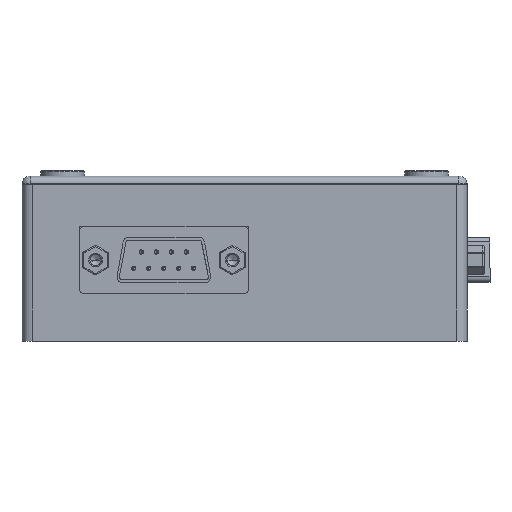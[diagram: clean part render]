
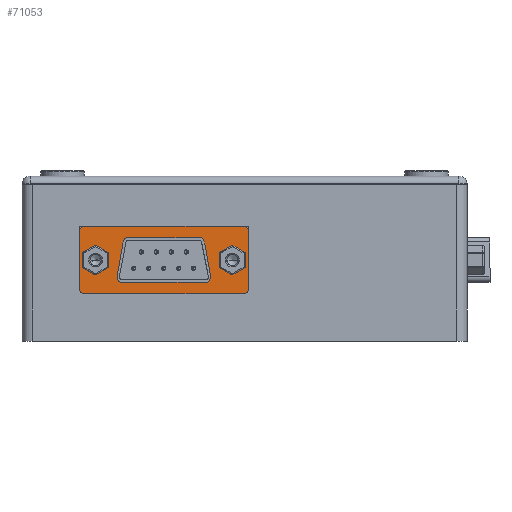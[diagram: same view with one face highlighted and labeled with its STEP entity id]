
A CAD part, left-side view. The second image highlights one B-rep face of the part: STEP entity #71053.
In plain terms, the highlighted planar face has unit normal (-1, 0, 0).
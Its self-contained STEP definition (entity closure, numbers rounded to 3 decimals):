
#252 = VERTEX_POINT ( 'NONE', #11289 ) ;
#334 = DIRECTION ( 'NONE',  ( -1., 0., 0. ) ) ;
#3836 = DIRECTION ( 'NONE',  ( -1., 0., 0. ) ) ;
#4014 = VERTEX_POINT ( 'NONE', #47797 ) ;
#4121 = ORIENTED_EDGE ( 'NONE', *, *, #27496, .T. ) ;
#4281 = LINE ( 'NONE', #24293, #65952 ) ;
#4787 = DIRECTION ( 'NONE',  ( 0., -1., 0. ) ) ;
#5253 = CARTESIAN_POINT ( 'NONE',  ( 12.858, 48.53, 55.91 ) ) ;
#6468 = DIRECTION ( 'NONE',  ( -1., 0., 0. ) ) ;
#7122 = EDGE_CURVE ( 'NONE', #40497, #252, #38866, .T. ) ;
#7803 = ORIENTED_EDGE ( 'NONE', *, *, #59183, .F. ) ;
#9002 = VECTOR ( 'NONE', #68100, 1000. ) ;
#10870 = LINE ( 'NONE', #62451, #9002 ) ;
#11216 = DIRECTION ( 'NONE',  ( 0., 1., 0. ) ) ;
#11289 = CARTESIAN_POINT ( 'NONE',  ( 12.858, 75.83, 49.635 ) ) ;
#11910 = FACE_BOUND ( 'NONE', #70861, .T. ) ;
#12491 = DIRECTION ( 'NONE',  ( -1., 0., 0. ) ) ;
#14129 = EDGE_LOOP ( 'NONE', ( #4121, #66762, #74170, #65872, #63156, #22975, #76081, #63224 ) ) ;
#15147 = DIRECTION ( 'NONE',  ( -1., 0., 0. ) ) ;
#15152 = CIRCLE ( 'NONE', #50162, 1. ) ;
#16782 = EDGE_CURVE ( 'NONE', #19528, #34446, #56676, .T. ) ;
#17751 = LINE ( 'NONE', #42262, #63585 ) ;
#18194 = EDGE_CURVE ( 'NONE', #4014, #19961, #17751, .T. ) ;
#18623 = CARTESIAN_POINT ( 'NONE',  ( 12.858, 75.83, 61.185 ) ) ;
#18660 = VERTEX_POINT ( 'NONE', #23630 ) ;
#19528 = VERTEX_POINT ( 'NONE', #25867 ) ;
#19961 = VERTEX_POINT ( 'NONE', #39440 ) ;
#19989 = AXIS2_PLACEMENT_3D ( 'NONE', #36189, #334, #42200 ) ;
#20301 = ORIENTED_EDGE ( 'NONE', *, *, #50897, .F. ) ;
#22415 = AXIS2_PLACEMENT_3D ( 'NONE', #18623, #60472, #24641 ) ;
#22975 = ORIENTED_EDGE ( 'NONE', *, *, #18194, .T. ) ;
#23051 = CARTESIAN_POINT ( 'NONE',  ( 12.858, 46.53, 62.185 ) ) ;
#23630 = CARTESIAN_POINT ( 'NONE',  ( 12.858, 47.03, 55.91 ) ) ;
#24034 = AXIS2_PLACEMENT_3D ( 'NONE', #39671, #3836, #45710 ) ;
#24293 = CARTESIAN_POINT ( 'NONE',  ( 12.858, 46.53, 49.635 ) ) ;
#24309 = EDGE_CURVE ( 'NONE', #252, #48044, #4281, .T. ) ;
#24641 = DIRECTION ( 'NONE',  ( 0., 1., 0. ) ) ;
#25867 = CARTESIAN_POINT ( 'NONE',  ( 12.858, 72.33, 55.91 ) ) ;
#26167 = EDGE_LOOP ( 'NONE', ( #38942, #20301 ) ) ;
#27496 = EDGE_CURVE ( 'NONE', #64437, #49615, #69431, .T. ) ;
#29724 = CARTESIAN_POINT ( 'NONE',  ( 12.858, 48.53, 55.91 ) ) ;
#30359 = PLANE ( 'NONE',  #22415 ) ;
#30733 = DIRECTION ( 'NONE',  ( 0., 0., 1. ) ) ;
#33002 = LINE ( 'NONE', #76799, #62912 ) ;
#34446 = VERTEX_POINT ( 'NONE', #58538 ) ;
#35757 = DIRECTION ( 'NONE',  ( 0., 1., 0. ) ) ;
#36189 = CARTESIAN_POINT ( 'NONE',  ( 12.858, 73.83, 55.91 ) ) ;
#37672 = EDGE_CURVE ( 'NONE', #39600, #64437, #10870, .T. ) ;
#38866 = CIRCLE ( 'NONE', #59837, 1. ) ;
#38942 = ORIENTED_EDGE ( 'NONE', *, *, #16782, .F. ) ;
#39440 = CARTESIAN_POINT ( 'NONE',  ( 12.858, 45.53, 61.185 ) ) ;
#39600 = VERTEX_POINT ( 'NONE', #23051 ) ;
#39671 = CARTESIAN_POINT ( 'NONE',  ( 12.858, 75.83, 61.185 ) ) ;
#40497 = VERTEX_POINT ( 'NONE', #72374 ) ;
#40609 = DIRECTION ( 'NONE',  ( -1., 0., 0. ) ) ;
#41169 = CARTESIAN_POINT ( 'NONE',  ( 12.858, 75.83, 62.185 ) ) ;
#41929 = FACE_OUTER_BOUND ( 'NONE', #14129, .T. ) ;
#42200 = DIRECTION ( 'NONE',  ( 0., 1., 0. ) ) ;
#42262 = CARTESIAN_POINT ( 'NONE',  ( 12.858, 45.53, 61.185 ) ) ;
#42316 = CARTESIAN_POINT ( 'NONE',  ( 12.858, 46.53, 50.635 ) ) ;
#42323 = DIRECTION ( 'NONE',  ( 0., -1., 0. ) ) ;
#45489 = EDGE_CURVE ( 'NONE', #48044, #4014, #69984, .T. ) ;
#45710 = DIRECTION ( 'NONE',  ( 0., 1., 0. ) ) ;
#46955 = CIRCLE ( 'NONE', #67357, 1.5 ) ;
#47124 = DIRECTION ( 'NONE',  ( -1., 0., 0. ) ) ;
#47276 = DIRECTION ( 'NONE',  ( 0., 0., -1. ) ) ;
#47797 = CARTESIAN_POINT ( 'NONE',  ( 12.858, 45.53, 50.635 ) ) ;
#48044 = VERTEX_POINT ( 'NONE', #76066 ) ;
#48359 = DIRECTION ( 'NONE',  ( 0., -1., 0. ) ) ;
#48417 = CARTESIAN_POINT ( 'NONE',  ( 12.858, 46.53, 61.185 ) ) ;
#49615 = VERTEX_POINT ( 'NONE', #75877 ) ;
#50162 = AXIS2_PLACEMENT_3D ( 'NONE', #48417, #12491, #54442 ) ;
#50897 = EDGE_CURVE ( 'NONE', #34446, #19528, #73241, .T. ) ;
#51047 = CARTESIAN_POINT ( 'NONE',  ( 12.858, 73.83, 55.91 ) ) ;
#51455 = EDGE_CURVE ( 'NONE', #19961, #39600, #15152, .T. ) ;
#54442 = DIRECTION ( 'NONE',  ( 0., -1., 0. ) ) ;
#55958 = EDGE_CURVE ( 'NONE', #56141, #18660, #62421, .T. ) ;
#56141 = VERTEX_POINT ( 'NONE', #61362 ) ;
#56676 = CIRCLE ( 'NONE', #58030, 1.5 ) ;
#57023 = AXIS2_PLACEMENT_3D ( 'NONE', #42316, #6468, #48359 ) ;
#57057 = DIRECTION ( 'NONE',  ( 0., 1., 0. ) ) ;
#57850 = FACE_BOUND ( 'NONE', #26167, .T. ) ;
#58030 = AXIS2_PLACEMENT_3D ( 'NONE', #51047, #15147, #57057 ) ;
#58402 = ORIENTED_EDGE ( 'NONE', *, *, #55958, .F. ) ;
#58538 = CARTESIAN_POINT ( 'NONE',  ( 12.858, 75.33, 55.91 ) ) ;
#59183 = EDGE_CURVE ( 'NONE', #18660, #56141, #46955, .T. ) ;
#59837 = AXIS2_PLACEMENT_3D ( 'NONE', #76214, #40609, #4787 ) ;
#60472 = DIRECTION ( 'NONE',  ( -1., 0., 0. ) ) ;
#61362 = CARTESIAN_POINT ( 'NONE',  ( 12.858, 50.03, 55.91 ) ) ;
#62421 = CIRCLE ( 'NONE', #70010, 1.5 ) ;
#62451 = CARTESIAN_POINT ( 'NONE',  ( 12.858, 46.53, 62.185 ) ) ;
#62912 = VECTOR ( 'NONE', #47276, 1000. ) ;
#63156 = ORIENTED_EDGE ( 'NONE', *, *, #45489, .T. ) ;
#63224 = ORIENTED_EDGE ( 'NONE', *, *, #37672, .T. ) ;
#63585 = VECTOR ( 'NONE', #30733, 1000. ) ;
#64437 = VERTEX_POINT ( 'NONE', #41169 ) ;
#65872 = ORIENTED_EDGE ( 'NONE', *, *, #24309, .T. ) ;
#65952 = VECTOR ( 'NONE', #42323, 1000. ) ;
#66762 = ORIENTED_EDGE ( 'NONE', *, *, #72588, .T. ) ;
#67357 = AXIS2_PLACEMENT_3D ( 'NONE', #5253, #47124, #11216 ) ;
#68100 = DIRECTION ( 'NONE',  ( 0., 1., 0. ) ) ;
#69431 = CIRCLE ( 'NONE', #24034, 1. ) ;
#69984 = CIRCLE ( 'NONE', #57023, 1. ) ;
#70010 = AXIS2_PLACEMENT_3D ( 'NONE', #29724, #71431, #35757 ) ;
#70861 = EDGE_LOOP ( 'NONE', ( #7803, #58402 ) ) ;
#71053 = ADVANCED_FACE ( 'NONE', ( #11910, #41929, #57850 ), #30359, .T. ) ;
#71431 = DIRECTION ( 'NONE',  ( -1., 0., 0. ) ) ;
#72374 = CARTESIAN_POINT ( 'NONE',  ( 12.858, 76.83, 50.635 ) ) ;
#72588 = EDGE_CURVE ( 'NONE', #49615, #40497, #33002, .T. ) ;
#73241 = CIRCLE ( 'NONE', #19989, 1.5 ) ;
#74170 = ORIENTED_EDGE ( 'NONE', *, *, #7122, .T. ) ;
#75877 = CARTESIAN_POINT ( 'NONE',  ( 12.858, 76.83, 61.185 ) ) ;
#76066 = CARTESIAN_POINT ( 'NONE',  ( 12.858, 46.53, 49.635 ) ) ;
#76081 = ORIENTED_EDGE ( 'NONE', *, *, #51455, .T. ) ;
#76214 = CARTESIAN_POINT ( 'NONE',  ( 12.858, 75.83, 50.635 ) ) ;
#76799 = CARTESIAN_POINT ( 'NONE',  ( 12.858, 76.83, 61.185 ) ) ;
